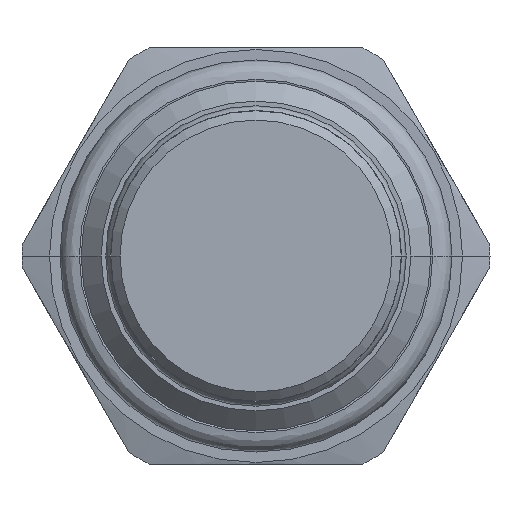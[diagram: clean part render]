
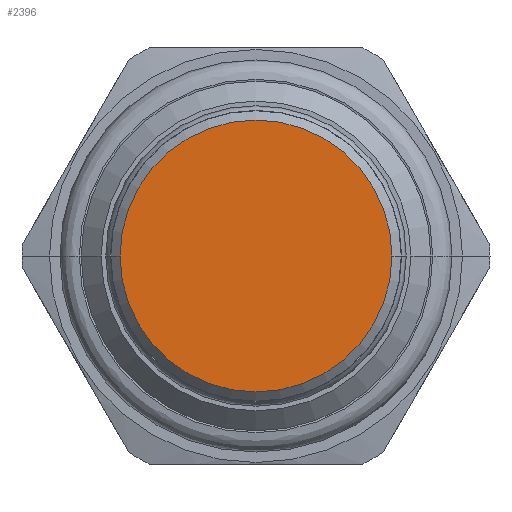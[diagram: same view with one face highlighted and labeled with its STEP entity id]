
A CAD part, front view. The second image highlights one B-rep face of the part: STEP entity #2396.
In plain terms, the highlighted planar face has unit normal (0, -1, 0).
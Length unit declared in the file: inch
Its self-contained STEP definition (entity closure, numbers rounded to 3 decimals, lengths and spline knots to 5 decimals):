
#804=CARTESIAN_POINT('',(0.,-1.81,0.));
#805=DIRECTION('',(0.,-1.,0.));
#806=DIRECTION('',(-1.,0.,0.));
#807=AXIS2_PLACEMENT_3D('',#804,#805,#806);
#828=CARTESIAN_POINT('',(0.,-1.81,0.));
#829=DIRECTION('',(0.,1.,0.));
#830=DIRECTION('',(-1.,0.,0.));
#831=AXIS2_PLACEMENT_3D('',#828,#829,#830);
#1131=CARTESIAN_POINT('',(-0.408,-1.81,0.));
#1132=CARTESIAN_POINT('',(0.408,-1.81,0.));
#1133=VERTEX_POINT('',#1131);
#1134=VERTEX_POINT('',#1132);
#2387=CARTESIAN_POINT('',(0.,-1.81,0.));
#2388=DIRECTION('',(0.,1.,0.));
#2389=DIRECTION('',(1.,0.,0.));
#2390=AXIS2_PLACEMENT_3D('',#2387,#2388,#2389);
#2391=PLANE('',#2390);
#2392=ORIENTED_EDGE('',*,*,#2365,.F.);
#2393=ORIENTED_EDGE('',*,*,#2381,.T.);
#2394=EDGE_LOOP('',(#2392,#2393));
#2395=FACE_OUTER_BOUND('',#2394,.F.);
#2396=ADVANCED_FACE('',(#2395),#2391,.F.);
#808=CIRCLE('',#807,0.408);
#832=CIRCLE('',#831,0.408);
#2365=EDGE_CURVE('',#1133,#1134,#808,.T.);
#2381=EDGE_CURVE('',#1133,#1134,#832,.T.);
